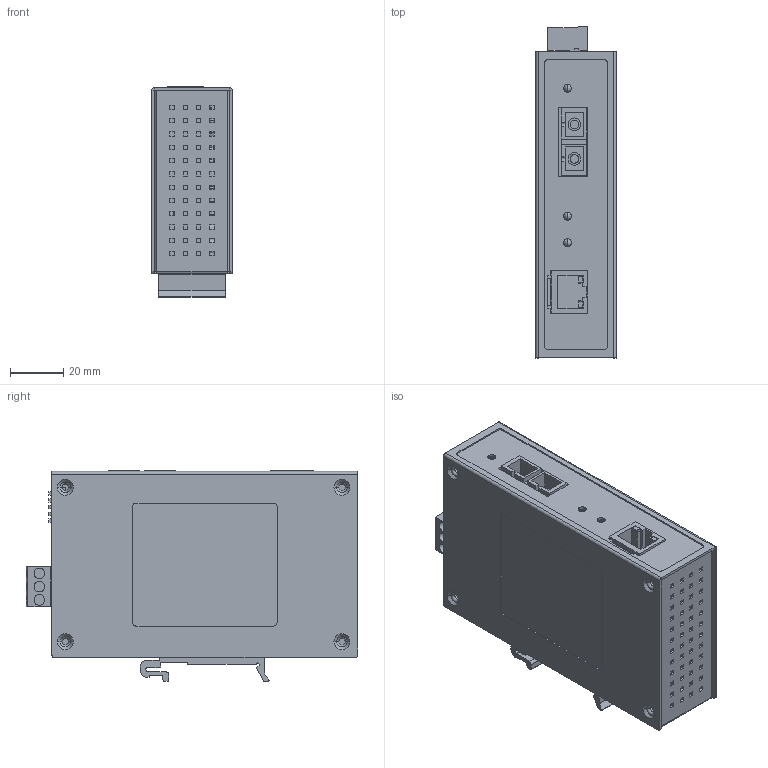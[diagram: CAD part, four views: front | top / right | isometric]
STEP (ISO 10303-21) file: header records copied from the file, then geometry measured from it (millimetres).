
FILE_DESCRIPTION((''),'2;1');
FILE_NAME('IMC-21A-M-SC','2011-03-16T',('Chialu_Chang'),(''),'PRO/ENGINEER BY PARAMETRIC TECHNOLOGY CORPORATION, 2004320','PRO/ENGINEER BY PARAMETRIC TECHNOLOGY CORPORATION, 2004320','');
FILE_SCHEMA(('CONFIG_CONTROL_DESIGN'));
Length unit declared in the file: millimetre
Products named in the file (1): IMC-21A-M-SC
Bounding box: 30.3 x 124.7 x 79 mm (x, y, z)
Surface area: 105093 mm2 (no closed solid volume)
Topology: 0 solids, 25 shells, 1384 faces, 3632 edges, 2379 vertices
Faces by surface type: plane 909, cylinder 347, torus 58, cone 58, bspline 12
Entity records: 43267 total; most frequent: CARTESIAN_POINT 7845, DIRECTION 7441, ORIENTED_EDGE 7224, EDGE_CURVE 3624, VECTOR 2523, LINE 2523, AXIS2_PLACEMENT_3D 2459, VERTEX_POINT 2379
